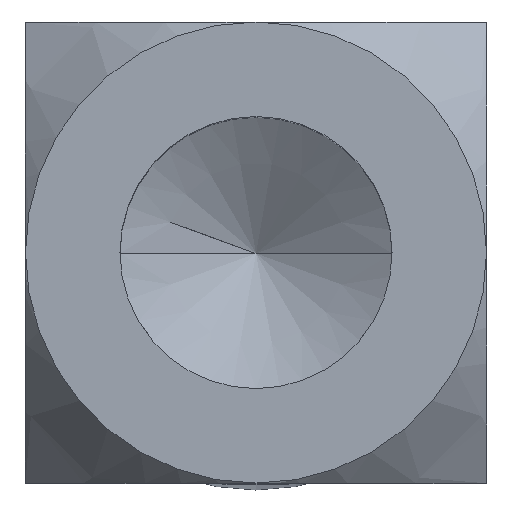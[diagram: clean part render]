
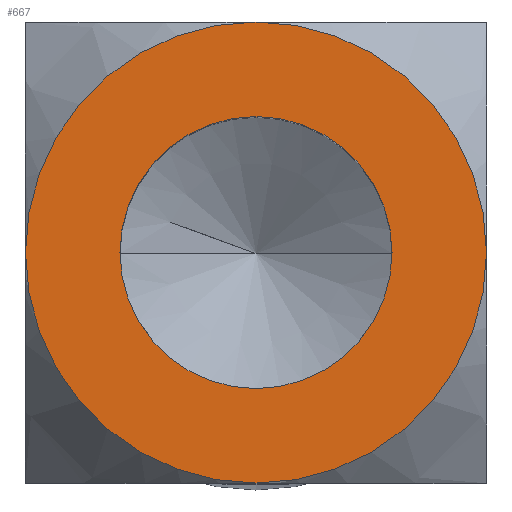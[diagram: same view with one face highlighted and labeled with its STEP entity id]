
A CAD part, top view. The second image highlights one B-rep face of the part: STEP entity #667.
In plain terms, the highlighted planar face has unit normal (0, 0, 1).
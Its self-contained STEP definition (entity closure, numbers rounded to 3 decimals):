
#6 = VERTEX_POINT ( 'NONE', #559 ) ;
#27 = CARTESIAN_POINT ( 'NONE',  ( 0., 0., 23. ) ) ;
#43 = CARTESIAN_POINT ( 'NONE',  ( 0., -10., 23. ) ) ;
#44 = DIRECTION ( 'NONE',  ( -1., 0., 0. ) ) ;
#45 = CIRCLE ( 'NONE', #184, 10. ) ;
#60 = VERTEX_POINT ( 'NONE', #355 ) ;
#85 = ORIENTED_EDGE ( 'NONE', *, *, #999, .T. ) ;
#97 = EDGE_LOOP ( 'NONE', ( #246, #720 ) ) ;
#101 = DIRECTION ( 'NONE',  ( 1., 0., 0. ) ) ;
#109 = VERTEX_POINT ( 'NONE', #43 ) ;
#113 = CARTESIAN_POINT ( 'NONE',  ( 0., 0., 23. ) ) ;
#134 = AXIS2_PLACEMENT_3D ( 'NONE', #27, #663, #587 ) ;
#184 = AXIS2_PLACEMENT_3D ( 'NONE', #650, #418, #293 ) ;
#207 = DIRECTION ( 'NONE',  ( 0., 0., -1. ) ) ;
#245 = CIRCLE ( 'NONE', #379, 5.9 ) ;
#246 = ORIENTED_EDGE ( 'NONE', *, *, #541, .T. ) ;
#263 = EDGE_LOOP ( 'NONE', ( #799, #85, #805, #502 ) ) ;
#286 = CIRCLE ( 'NONE', #299, 5.9 ) ;
#289 = DIRECTION ( 'NONE',  ( 1., 0., 0. ) ) ;
#293 = DIRECTION ( 'NONE',  ( -1., 0., 0. ) ) ;
#299 = AXIS2_PLACEMENT_3D ( 'NONE', #558, #348, #101 ) ;
#337 = VERTEX_POINT ( 'NONE', #678 ) ;
#348 = DIRECTION ( 'NONE',  ( 0., 0., -1. ) ) ;
#355 = CARTESIAN_POINT ( 'NONE',  ( -5.9, 0., 23. ) ) ;
#364 = DIRECTION ( 'NONE',  ( 0., 0., 1. ) ) ;
#379 = AXIS2_PLACEMENT_3D ( 'NONE', #113, #207, #289 ) ;
#387 = DIRECTION ( 'NONE',  ( 1., 0., 0. ) ) ;
#394 = FACE_OUTER_BOUND ( 'NONE', #263, .T. ) ;
#397 = EDGE_CURVE ( 'NONE', #337, #109, #623, .T. ) ;
#418 = DIRECTION ( 'NONE',  ( 0., 0., 1. ) ) ;
#424 = CARTESIAN_POINT ( 'NONE',  ( 5.9, 0., 23. ) ) ;
#457 = DIRECTION ( 'NONE',  ( 0., 0., 1. ) ) ;
#467 = PLANE ( 'NONE',  #591 ) ;
#501 = AXIS2_PLACEMENT_3D ( 'NONE', #830, #364, #676 ) ;
#502 = ORIENTED_EDGE ( 'NONE', *, *, #397, .T. ) ;
#513 = EDGE_CURVE ( 'NONE', #60, #695, #286, .T. ) ;
#541 = EDGE_CURVE ( 'NONE', #695, #60, #245, .T. ) ;
#558 = CARTESIAN_POINT ( 'NONE',  ( 0., 0., 23. ) ) ;
#559 = CARTESIAN_POINT ( 'NONE',  ( 10., 0., 23. ) ) ;
#566 = EDGE_CURVE ( 'NONE', #109, #6, #876, .T. ) ;
#587 = DIRECTION ( 'NONE',  ( -1., 0., 0. ) ) ;
#591 = AXIS2_PLACEMENT_3D ( 'NONE', #1006, #772, #387 ) ;
#623 = CIRCLE ( 'NONE', #134, 10. ) ;
#650 = CARTESIAN_POINT ( 'NONE',  ( 0., 0., 23. ) ) ;
#663 = DIRECTION ( 'NONE',  ( 0., 0., 1. ) ) ;
#667 = ADVANCED_FACE ( 'NONE', ( #777, #394 ), #467, .T. ) ;
#676 = DIRECTION ( 'NONE',  ( -1., 0., 0. ) ) ;
#678 = CARTESIAN_POINT ( 'NONE',  ( -10., 0., 23. ) ) ;
#695 = VERTEX_POINT ( 'NONE', #424 ) ;
#720 = ORIENTED_EDGE ( 'NONE', *, *, #513, .T. ) ;
#724 = EDGE_CURVE ( 'NONE', #954, #337, #45, .T. ) ;
#772 = DIRECTION ( 'NONE',  ( 0., 0., 1. ) ) ;
#777 = FACE_BOUND ( 'NONE', #97, .T. ) ;
#799 = ORIENTED_EDGE ( 'NONE', *, *, #566, .T. ) ;
#805 = ORIENTED_EDGE ( 'NONE', *, *, #724, .T. ) ;
#819 = CARTESIAN_POINT ( 'NONE',  ( 0., 10., 23. ) ) ;
#830 = CARTESIAN_POINT ( 'NONE',  ( 0., 0., 23. ) ) ;
#857 = CIRCLE ( 'NONE', #501, 10. ) ;
#876 = CIRCLE ( 'NONE', #994, 10. ) ;
#954 = VERTEX_POINT ( 'NONE', #819 ) ;
#978 = CARTESIAN_POINT ( 'NONE',  ( 0., 0., 23. ) ) ;
#994 = AXIS2_PLACEMENT_3D ( 'NONE', #978, #457, #44 ) ;
#999 = EDGE_CURVE ( 'NONE', #6, #954, #857, .T. ) ;
#1006 = CARTESIAN_POINT ( 'NONE',  ( -10.12, -10.12, 23. ) ) ;
